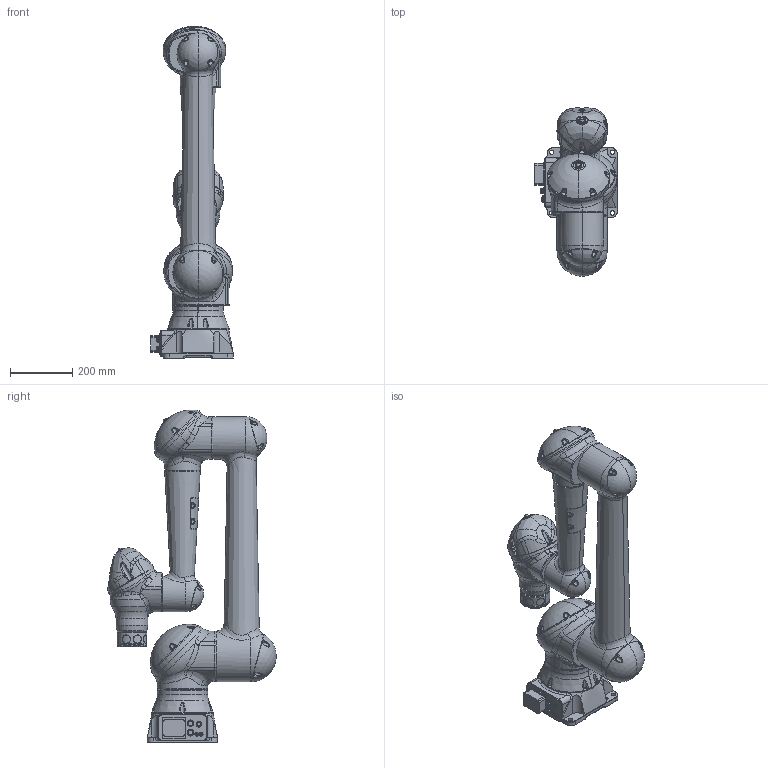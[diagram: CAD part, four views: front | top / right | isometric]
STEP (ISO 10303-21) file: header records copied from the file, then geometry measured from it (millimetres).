
FILE_DESCRIPTION(/* description */ (''),/* implementation_level */ '2;1');
FILE_NAME(/* name */ 'HD10DT.stp',/* time_stamp */ '2019-05-16T11:47:56+02:00',/* author */ (''),/* organization */ (''),/* preprocessor_version */ 'ST-DEVELOPER v16.7',/* originating_system */ 'SIEMENS PLM Software NX 12.0',/* authorisation */ '');
FILE_SCHEMA (('AUTOMOTIVE_DESIGN { 1 0 10303 214 3 1 1 1 }'));
Length unit declared in the file: millimetre
Products named in the file (8): U-Axis; T-Axis; S-Axis; R-Axis; L-Axis; Base; B-Axis; HD10DT
Assembly tree (7 placements, depth 2):
  HD10DT
    B-Axis
    Base
    L-Axis
    R-Axis
    S-Axis
    T-Axis
    U-Axis
Bounding box: 264.65 x 540.58 x 1065.22 mm (x, y, z)
Volume: 33787478.4 mm3; surface area: 1320027.4 mm2
Topology: 7 solids, 23 shells, 2057 faces, 4853 edges, 2894 vertices
Faces by surface type: bspline 684, cylinder 468, plane 464, torus 245, cone 134, sphere 62
Entity records: 133392 total; most frequent: CARTESIAN_POINT 86763, ORIENTED_EDGE 9630, DIRECTION 8075, EDGE_CURVE 4815, AXIS2_PLACEMENT_3D 3484, VERTEX_POINT 2894, EDGE_LOOP 2167, CIRCLE 2079
